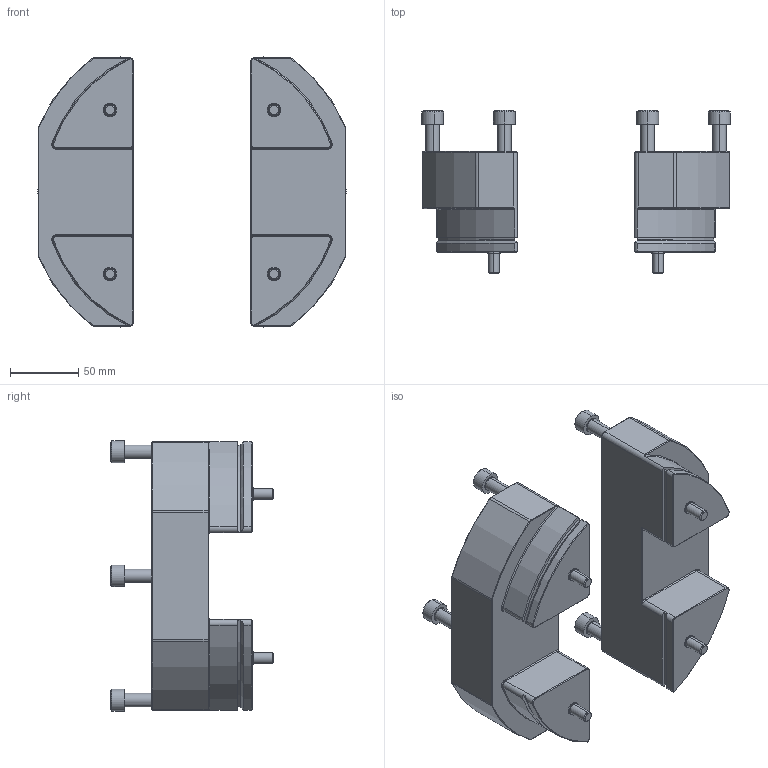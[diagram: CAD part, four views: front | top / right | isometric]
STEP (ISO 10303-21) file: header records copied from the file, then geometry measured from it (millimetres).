
FILE_DESCRIPTION (( 'STEP AP203' ), '1' );
FILE_NAME ('5012661 - VERSACART UR20 UR30 PEDESTAL MOUNT.STEP', '2024-12-11T17:54:35', ( '' ), ( '' ), 'SwSTEP 2.0', 'SolidWorks 2019', '' );
FILE_SCHEMA (( 'CONFIG_CONTROL_DESIGN' ));
Length unit declared in the file: inch
Products named in the file (6): 5012661_UR20 AND UR30; 5012661 - VERSACART UR20 UR30 PEDESTAL MOUNT; M10x1.5 SHCS_SHCS M10-1.5 x 35; M8x1.25 SHCS_SHCS M8-1.25 x 80; 5012103; 5012087_Default Configuration
Assembly tree (13 placements, depth 3):
  5012661 - VERSACART UR20 UR30 PEDESTAL MOUNT
    5012661_UR20 AND UR30
      5012103  x2
      M8x1.25 SHCS_SHCS M8-1.25 x 80  x4
      M10x1.5 SHCS_SHCS M10-1.5 x 35  x6
  5012087_Default Configuration
Bounding box: 226 x 119.27 x 197.87 mm (x, y, z)
Volume: 1355468.2 mm3; surface area: 152357.4 mm2
Topology: 12 solids, 12 shells, 518 faces, 1184 edges, 692 vertices
Faces by surface type: plane 218, cone 136, cylinder 124, torus 36, bspline 4
Entity records: 6151 total; most frequent: CARTESIAN_POINT 1240, DIRECTION 904, ORIENTED_EDGE 816, EDGE_CURVE 408, AXIS2_PLACEMENT_3D 353, VERTEX_POINT 247, LINE 198, VECTOR 198
